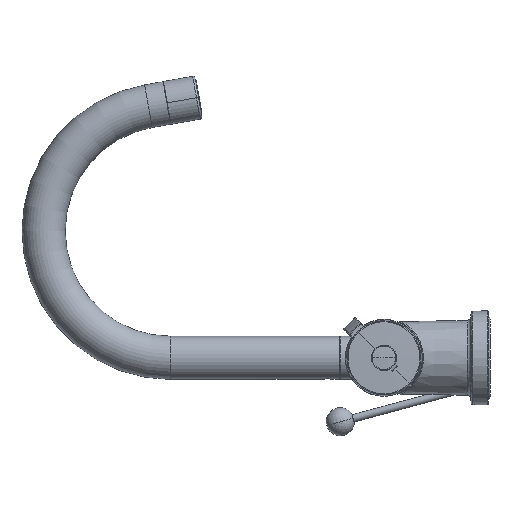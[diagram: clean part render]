
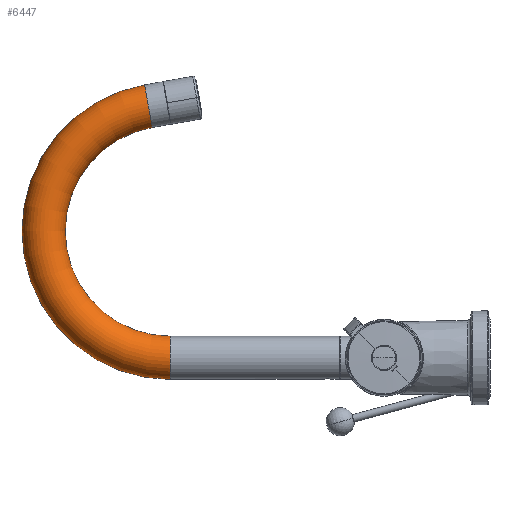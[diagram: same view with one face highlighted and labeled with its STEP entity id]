
A CAD part, left-side view. The second image highlights one B-rep face of the part: STEP entity #6447.
In plain terms, the highlighted toroidal (fillet/blend) face has major radius 67.5 mm and minor radius 11.5 mm.
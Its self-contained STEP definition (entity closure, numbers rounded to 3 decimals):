
#6233=CARTESIAN_POINT('',(0.,113.67,67.5));
#6234=DIRECTION('',(1.,0.,0.));
#6235=DIRECTION('',(0.,0.,-1.));
#6236=AXIS2_PLACEMENT_3D('',#6233,#6234,#6235);
#6238=CARTESIAN_POINT('',(0.,113.67,0.));
#6239=DIRECTION('',(0.,1.,0.));
#6240=DIRECTION('',(0.,0.,-1.));
#6241=AXIS2_PLACEMENT_3D('',#6238,#6239,#6240);
#6243=CARTESIAN_POINT('',(0.,113.67,67.5));
#6244=DIRECTION('',(1.,0.,0.));
#6245=DIRECTION('',(0.,0.,-1.));
#6246=AXIS2_PLACEMENT_3D('',#6243,#6244,#6245);
#6248=CARTESIAN_POINT('',(0.,125.391,133.975));
#6249=DIRECTION('',(0.,-0.985,0.174));
#6250=DIRECTION('',(0.,0.174,0.985));
#6251=AXIS2_PLACEMENT_3D('',#6248,#6249,#6250);
#6284=CARTESIAN_POINT('',(0.,113.67,11.5));
#6285=CARTESIAN_POINT('',(0.,113.67,-11.5));
#6286=VERTEX_POINT('',#6284);
#6287=VERTEX_POINT('',#6285);
#6288=CARTESIAN_POINT('',(0.,123.394,122.649));
#6289=CARTESIAN_POINT('',(0.,127.388,145.3));
#6290=VERTEX_POINT('',#6288);
#6291=VERTEX_POINT('',#6289);
#6435=CARTESIAN_POINT('',(0.,113.67,67.5));
#6436=DIRECTION('',(1.,0.,0.));
#6437=DIRECTION('',(0.,0.,1.));
#6438=AXIS2_PLACEMENT_3D('',#6435,#6436,#6437);
#6439=TOROIDAL_SURFACE('',#6438,67.5,11.5);
#6440=ORIENTED_EDGE('',*,*,#6391,.F.);
#6441=ORIENTED_EDGE('',*,*,#6430,.T.);
#6443=ORIENTED_EDGE('',*,*,#6442,.T.);
#6444=ORIENTED_EDGE('',*,*,#6426,.F.);
#6445=EDGE_LOOP('',(#6440,#6441,#6443,#6444));
#6446=FACE_OUTER_BOUND('',#6445,.F.);
#6447=ADVANCED_FACE('',(#6446),#6439,.T.);
#6237=CIRCLE('',#6236,56.);
#6242=CIRCLE('',#6241,11.5);
#6247=CIRCLE('',#6246,79.);
#6252=CIRCLE('',#6251,11.5);
#6391=EDGE_CURVE('',#6287,#6286,#6242,.T.);
#6426=EDGE_CURVE('',#6286,#6290,#6237,.T.);
#6430=EDGE_CURVE('',#6287,#6291,#6247,.T.);
#6442=EDGE_CURVE('',#6291,#6290,#6252,.T.);
